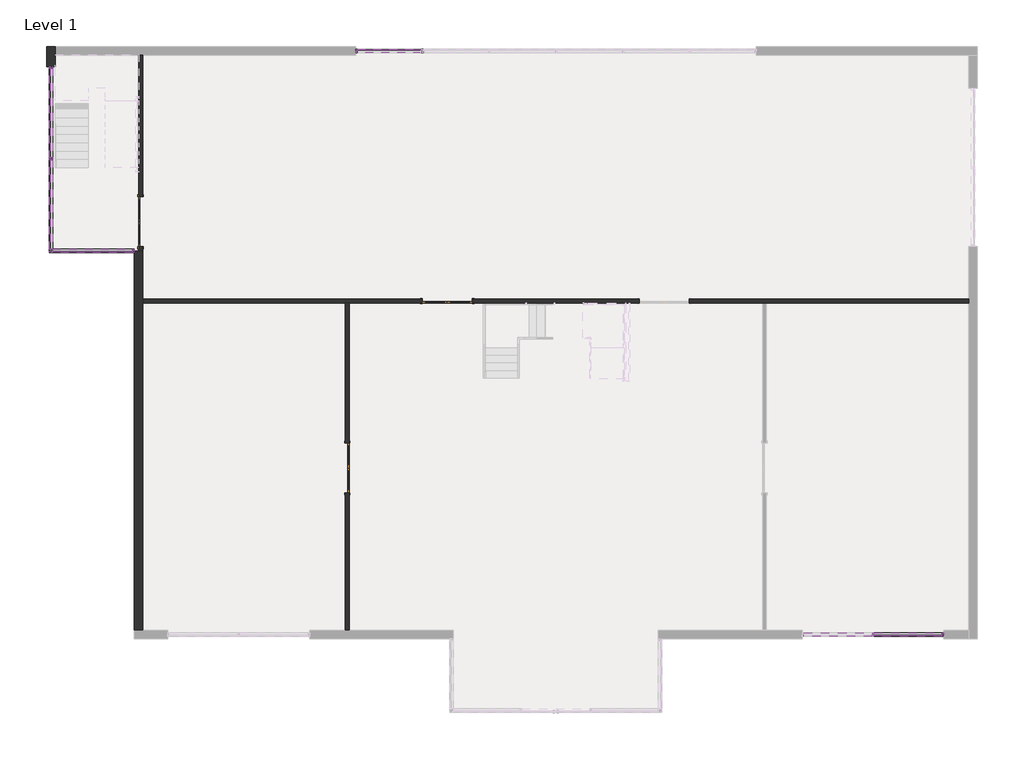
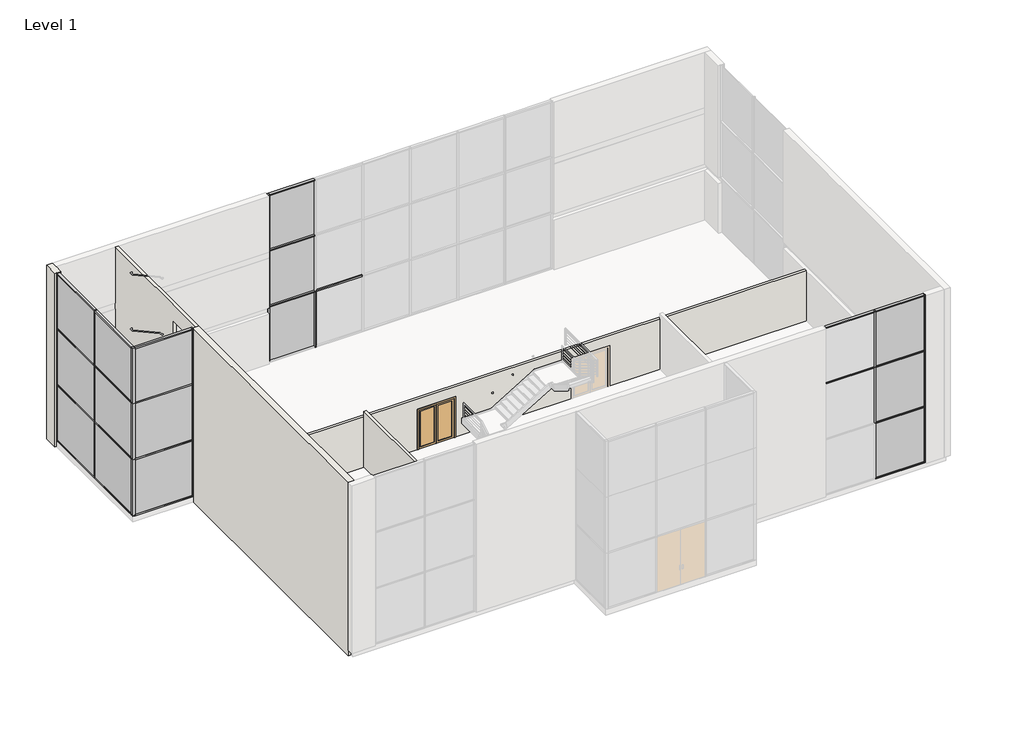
# One storey, part 2 of 7: 50 members, 15 plates, 5 walls, 3 doors.
"""IFC4 building model written with IfcOpenShell, lengths in millimetres."""

import ifcopenshell
import ifcopenshell.guid

model = None  # the IFC model being written
_history = None  # IfcOwnerHistory: only IFC2X3 demands one
_inside = {}  # id of a spatial element -> (the spatial element, [elements in it])
_under = {}  # id of a project, library or spatial element -> (it, [spatial elements below it])
_declared = {}  # id of a project -> (the project, [libraries it declares])
_typed = {}  # id of a type object -> (the type object, [elements of that type])
_made_of = {}  # id of a material, layer set ... -> (it, [elements and type objects made of it])


def new_model(schema):
    """Start an empty IFC model of exactly this schema.

    Asked for "IFC4X3", IfcOpenShell would pick the latest addendum, in which some entities
    have other attributes; the version numbers below select the first issue.
    IFC2X3 requires an IfcOwnerHistory on every rooted entity: one is made here for all.
    """
    global model, _history
    if schema == "IFC4X3":
        model = ifcopenshell.file(schema_version=(4, 3, 0, 0))
    else:
        model = ifcopenshell.file(schema=schema)
    _inside.clear()
    _under.clear()
    _declared.clear()
    _typed.clear()
    _made_of.clear()
    _history = None
    if model.schema == "IFC2X3":
        org = make("IfcOrganization", Name="unknown")
        user = make(
            "IfcPersonAndOrganization",
            ThePerson=make("IfcPerson", FamilyName="unknown"),
            TheOrganization=org,
        )
        app = make(
            "IfcApplication",
            ApplicationDeveloper=org,
            Version="unknown",
            ApplicationFullName="unknown",
            ApplicationIdentifier="unknown",
        )
        _history = make(
            "IfcOwnerHistory",
            OwningUser=user,
            OwningApplication=app,
            ChangeAction="ADDED",
            CreationDate=0,
        )
    return model


def make(cls, **values):
    """One entity of the class cls with the attributes given. An attribute that is None is left unset."""
    return model.create_entity(
        cls, **{name: value for name, value in values.items() if value is not None}
    )


def rooted(cls, **values):
    """An entity with a GlobalId (a new one), such as an element, a storey or a relation."""
    return make(cls, GlobalId=ifcopenshell.guid.new(), OwnerHistory=_history, **values)


def si_unit(unit_type, name, prefix=None):
    """IfcSIUnit, for example si_unit("LENGTHUNIT", "METRE", prefix="MILLI")."""
    return make("IfcSIUnit", UnitType=unit_type, Prefix=prefix, Name=name)


def assignment(units):
    """IfcUnitAssignment: the units of a project."""
    return None if units is None else make("IfcUnitAssignment", Units=units)


def point(xyz):
    """IfcCartesianPoint."""
    return None if xyz is None else make("IfcCartesianPoint", Coordinates=xyz)


def direction(xyz):
    """IfcDirection."""
    return None if xyz is None else make("IfcDirection", DirectionRatios=xyz)


def frame(location, z_axis=None, x_axis=None):
    """IfcAxis2Placement3D, a coordinate frame: its origin and axes. An axis left out is left unset."""
    return make(
        "IfcAxis2Placement3D",
        Location=point(location),
        Axis=direction(z_axis),
        RefDirection=direction(x_axis),
    )


def origin():
    """The frame at (0, 0, 0) with its axes left unset."""
    return frame((0.0, 0.0, 0.0))


def origin_with_axes():
    """The frame at (0, 0, 0) with the z axis (0, 0, 1) and the x axis (1, 0, 0) written out."""
    return frame((0.0, 0.0, 0.0), z_axis=(0.0, 0.0, 1.0), x_axis=(1.0, 0.0, 0.0))


def place(relative_to, where):
    """IfcLocalPlacement: puts the frame where relative to a parent placement (None: the world)."""
    return make(
        "IfcLocalPlacement", PlacementRelTo=relative_to, RelativePlacement=where
    )


def context(
    kind, dimensions, precision=None, world=None, true_north=None, identifier=None
):
    """IfcGeometricRepresentationContext, for example the 3D "Model" context."""
    return make(
        "IfcGeometricRepresentationContext",
        ContextIdentifier=identifier,
        ContextType=kind,
        CoordinateSpaceDimension=dimensions,
        Precision=precision,
        WorldCoordinateSystem=world,
        TrueNorth=true_north,
    )


def project(units=None, contexts=None):
    """IfcProject with its units and contexts."""
    return rooted(
        "IfcProject",
        Name="project",
        RepresentationContexts=contexts,
        UnitsInContext=assignment(units),
    )


def spatial(cls, under=None, at=None, **own):
    """A site, building, storey or space (cls), placed at a placement, below another one or the project."""
    s = rooted(cls, ObjectPlacement=at, **own)
    if under is not None:
        _under.setdefault(under.id(), (under, []))[1].append(s)
    return s


def polyline(points):
    """IfcPolyline through the points."""
    return make("IfcPolyline", Points=[point(p) for p in points])


def outline(outer, holes=None, kind="AREA"):
    """IfcArbitraryClosedProfileDef: a profile drawn as a closed curve; with holes, ...WithVoids."""
    if holes is None:
        return make("IfcArbitraryClosedProfileDef", ProfileType=kind, OuterCurve=outer)
    return make(
        "IfcArbitraryProfileDefWithVoids",
        ProfileType=kind,
        OuterCurve=outer,
        InnerCurves=holes,
    )


def extrude(swept, where, along, depth):
    """IfcExtrudedAreaSolid: the profile swept, set in the frame where, extruded along a direction by depth."""
    return make(
        "IfcExtrudedAreaSolid",
        SweptArea=swept,
        Position=where,
        ExtrudedDirection=direction(along),
        Depth=depth,
    )


def faces_of(points, faces, orient=None, outer=None):
    """IfcFace entities. A face is a list of loops; a loop is a list of indices into points, from 0.

    orient and outer hold one flag for each loop. By default every Orientation is true, the
    first loop of a face is its IfcFaceOuterBound and the others are IfcFaceBound.
    """
    made = []
    for i, loops in enumerate(faces):
        bounds = []
        for j, loop in enumerate(loops):
            is_outer = j == 0 if outer is None else outer[i][j]
            bounds.append(
                make(
                    "IfcFaceOuterBound" if is_outer else "IfcFaceBound",
                    Bound=make("IfcPolyLoop", Polygon=[points[k] for k in loop]),
                    Orientation=True if orient is None else orient[i][j],
                )
            )
        made.append(make("IfcFace", Bounds=bounds))
    return made


def faceted_brep(points, faces, orient=None, outer=None, voids=None):
    """IfcFacetedBrep: a solid bounded by flat faces; with voids (closed shells), ...WithVoids."""
    shared = [point(p) for p in points]
    hull = make("IfcClosedShell", CfsFaces=faces_of(shared, faces, orient, outer))
    if voids is None:
        return make("IfcFacetedBrep", Outer=hull)
    return make(
        "IfcFacetedBrepWithVoids",
        Outer=hull,
        Voids=[
            make(cls, CfsFaces=faces_of(shared, fs, o, b)) for cls, fs, o, b in voids
        ],
    )


def shape(context_of_items, identifier, shape_type, items):
    """IfcShapeRepresentation: the items that make up one representation, for example the "Body"."""
    return make(
        "IfcShapeRepresentation",
        ContextOfItems=context_of_items,
        RepresentationIdentifier=identifier,
        RepresentationType=shape_type,
        Items=items,
    )


def source(mapping_origin, context_of_items, identifier, shape_type, items):
    """IfcRepresentationMap: a shape defined once, which mapped items show again and again."""
    return make(
        "IfcRepresentationMap",
        MappingOrigin=mapping_origin,
        MappedRepresentation=shape(context_of_items, identifier, shape_type, items),
    )


def transform(
    local_origin,
    x_axis=None,
    y_axis=None,
    z_axis=None,
    scale=None,
    scale2=None,
    scale3=None,
    uniform=True,
):
    """IfcCartesianTransformationOperator3D, or its non-uniform kind. x_axis, y_axis, z_axis: its Axis1, 2, 3."""
    if uniform:
        return make(
            "IfcCartesianTransformationOperator3D",
            Axis1=direction(x_axis),
            Axis2=direction(y_axis),
            LocalOrigin=point(local_origin),
            Scale=scale,
            Axis3=direction(z_axis),
        )
    return make(
        "IfcCartesianTransformationOperator3DnonUniform",
        Axis1=direction(x_axis),
        Axis2=direction(y_axis),
        LocalOrigin=point(local_origin),
        Scale=scale,
        Axis3=direction(z_axis),
        Scale2=scale2,
        Scale3=scale3,
    )


def mapped(mapping_source, mapping_target):
    """IfcMappedItem: shows the shape of a source again, moved by a transform."""
    return make(
        "IfcMappedItem", MappingSource=mapping_source, MappingTarget=mapping_target
    )


def made_of(thing, what):
    """Note that an element or type object is made of a material, layer set ...; save() writes the relation."""
    if what is not None:
        _made_of.setdefault(what.id(), (what, []))[1].append(thing)
    return thing


def element(
    cls,
    number,
    at=None,
    inside=None,
    cuts=None,
    type_object=None,
    material=None,
    context=None,
    identifier="Body",
    shape_type=None,
    held_by="IfcProductDefinitionShape",
    body=None,
    shapes=None,
    **own,
):
    """One element of the class cls, such as IfcWall. Its Tag is "e" and its number.

    at: its placement. inside: the storey or other place that contains it. cuts: it is an
    opening in that element (IfcRelVoidsElement). A single representation is given by context,
    identifier, shape_type and body (its items); several are given by shapes. held_by: the class
    of the entity that holds the representations. save() writes the other relations.
    """
    e = rooted(cls, Tag="e%d" % number, ObjectPlacement=at, **own)
    if body is not None:
        shapes = [shape(context, identifier, shape_type, body)]
    if shapes is not None:
        e.Representation = make(held_by, Representations=shapes)
    if inside is not None:
        _inside.setdefault(inside.id(), (inside, []))[1].append(e)
    if cuts is not None:
        rooted(
            "IfcRelVoidsElement", RelatingBuildingElement=cuts, RelatedOpeningElement=e
        )
    if type_object is not None:
        _typed.setdefault(type_object.id(), (type_object, []))[1].append(e)
    return made_of(e, material)


def aggregate(whole, parts):
    """IfcRelAggregates: a whole, such as a stair, and the parts it consists of."""
    return rooted("IfcRelAggregates", RelatingObject=whole, RelatedObjects=parts)


def save(model, path):
    """Write the relations noted so far, then the file.

    IfcRelAggregates (storeys below a building ...), IfcRelContainedInSpatialStructure (elements
    in a storey), IfcRelDefinesByType, IfcRelAssociatesMaterial and IfcRelDeclares: one each for
    every whole, place, type object, material and project.
    """
    for whole, parts in _under.values():
        aggregate(whole, parts)
    for where, things in _inside.values():
        rooted(
            "IfcRelContainedInSpatialStructure",
            RelatedElements=things,
            RelatingStructure=where,
        )
    for kind, things in _typed.values():
        rooted("IfcRelDefinesByType", RelatedObjects=things, RelatingType=kind)
    for what, things in _made_of.values():
        rooted("IfcRelAssociatesMaterial", RelatedObjects=things, RelatingMaterial=what)
    for by, libraries in _declared.values():
        rooted("IfcRelDeclares", RelatingContext=by, RelatedDefinitions=libraries)
    model.write(path)


def door_cb31edf2(model_context):
    return source(origin(), model_context, "Body", "SweptSolid", [
        extrude(outline(polyline([(2133.6, -914.4), (0.0, -914.4), (0.0, 0.0), (2133.6, 0.0), (2133.6, -914.4)]), holes=[polyline([(2032.0, -812.8), (2032.0, -101.6), (101.6, -101.6), (101.6, -812.8), (2032.0, -812.8)])]), frame((0.0, 29.36875, 0.0), z_axis=(0.0, 1.0, 0.0), x_axis=(0.0, 0.0, 1.0)), (0.0, 0.0, 1.0), 50.8),
        extrude(outline(polyline([(2133.6, 914.4), (2133.6, 0.0), (0.0, 0.0), (0.0, 914.4), (2133.6, 914.4)]), holes=[polyline([(2032.0, 812.8), (101.6, 812.8), (101.6, 101.6), (2032.0, 101.6), (2032.0, 812.8)])]), frame((0.0, 29.36875, 0.0), z_axis=(0.0, 1.0, 0.0), x_axis=(0.0, 0.0, 1.0)), (0.0, 0.0, 1.0), 50.8),
        extrude(outline(polyline([(101.6, 57.94375), (812.8, 57.94375), (812.8, 51.59375), (101.6, 51.59375), (101.6, 57.94375)])), frame((0.0, 0.0, 101.6), z_axis=(0.0, 0.0, 1.0), x_axis=(1.0, 0.0, 0.0)), (0.0, 0.0, 1.0), 1930.4),
        extrude(outline(polyline([(-812.8, 57.94375), (-101.6, 57.94375), (-101.6, 51.59375), (-812.8, 51.59375), (-812.8, 57.94375)])), frame((0.0, 0.0, 101.6), z_axis=(0.0, 0.0, 1.0), x_axis=(1.0, 0.0, 0.0)), (0.0, 0.0, 1.0), 1930.4),
        extrude(outline(polyline([(0.0, 990.6), (2209.8, 990.6), (2209.8, -990.6), (0.0, -990.6), (0.0, -914.4), (2133.6, -914.4), (2133.6, 914.4), (0.0, 914.4), (0.0, 990.6)])), frame((0.0, 80.16875, 0.0), z_axis=(0.0, 1.0, 0.0), x_axis=(0.0, 0.0, 1.0)), (0.0, 0.0, 1.0), 25.4),
        extrude(outline(polyline([(0.0, 990.6), (2209.8, 990.6), (2209.8, -990.6), (0.0, -990.6), (0.0, -914.4), (2133.6, -914.4), (2133.6, 914.4), (0.0, 914.4), (0.0, 990.6)])), frame((0.0, -100.80625, 0.0), z_axis=(0.0, 1.0, 0.0), x_axis=(0.0, 0.0, 1.0)), (0.0, 0.0, 1.0), 25.4),
    ])


def door_3f2f997e(model_context):
    return source(origin(), model_context, "Body", "SweptSolid", [
        extrude(outline(polyline([(2133.6, -914.4), (0.0, -914.4), (0.0, 0.0), (2133.6, 0.0), (2133.6, -914.4)]), holes=[polyline([(2032.0, -812.8), (2032.0, -101.6), (101.6, -101.6), (101.6, -812.8), (2032.0, -812.8)])]), frame((0.0, 21.43125, 0.0), z_axis=(0.0, 1.0, 0.0), x_axis=(0.0, 0.0, 1.0)), (0.0, 0.0, 1.0), 50.8),
        extrude(outline(polyline([(2133.6, 914.4), (2133.6, 0.0), (0.0, 0.0), (0.0, 914.4), (2133.6, 914.4)]), holes=[polyline([(2032.0, 812.8), (101.6, 812.8), (101.6, 101.6), (2032.0, 101.6), (2032.0, 812.8)])]), frame((0.0, 21.43125, 0.0), z_axis=(0.0, 1.0, 0.0), x_axis=(0.0, 0.0, 1.0)), (0.0, 0.0, 1.0), 50.8),
        extrude(outline(polyline([(101.6, 50.00625), (812.8, 50.00625), (812.8, 43.65625), (101.6, 43.65625), (101.6, 50.00625)])), frame((0.0, 0.0, 101.6), z_axis=(0.0, 0.0, 1.0), x_axis=(1.0, 0.0, 0.0)), (0.0, 0.0, 1.0), 1930.4),
        extrude(outline(polyline([(-812.8, 50.00625), (-101.6, 50.00625), (-101.6, 43.65625), (-812.8, 43.65625), (-812.8, 50.00625)])), frame((0.0, 0.0, 101.6), z_axis=(0.0, 0.0, 1.0), x_axis=(1.0, 0.0, 0.0)), (0.0, 0.0, 1.0), 1930.4),
        extrude(outline(polyline([(0.0, 990.6), (2209.8, 990.6), (2209.8, -990.6), (0.0, -990.6), (0.0, -914.4), (2133.6, -914.4), (2133.6, 914.4), (0.0, 914.4), (0.0, 990.6)])), frame((0.0, 72.23125, 0.0), z_axis=(0.0, 1.0, 0.0), x_axis=(0.0, 0.0, 1.0)), (0.0, 0.0, 1.0), 25.4),
        extrude(outline(polyline([(0.0, 990.6), (2209.8, 990.6), (2209.8, -990.6), (0.0, -990.6), (0.0, -914.4), (2133.6, -914.4), (2133.6, 914.4), (0.0, 914.4), (0.0, 990.6)])), frame((0.0, -92.86875, 0.0), z_axis=(0.0, 1.0, 0.0), x_axis=(0.0, 0.0, 1.0)), (0.0, 0.0, 1.0), 25.4),
    ])


def member_092dde94(model_context):
    return source(origin(), model_context, "Body", "SweptSolid", [
        extrude(outline(polyline([(63.5, 63.5), (63.5, -63.5), (-63.5, -63.5), (-63.5, 63.5), (63.5, 63.5)])), frame((0.0, 0.0, -3048.0), z_axis=(0.0, 0.0, 1.0), x_axis=(1.0, 0.0, 0.0)), (0.0, 0.0, 1.0), 3048.0),
    ])


def member_230d3ecf(model_context):
    return source(origin(), model_context, "Body", "SweptSolid", [
        extrude(outline(polyline([(63.5, 63.5), (63.5, -63.5), (-63.5, -63.5), (-63.5, 63.5), (63.5, 63.5)])), frame((0.0, 0.0, -31.75), z_axis=(0.0, 0.0, 1.0), x_axis=(1.0, 0.0, 0.0)), (0.0, 0.0, 1.0), 31.75),
    ])


def member_4c95cb00(model_context):
    return source(origin(), model_context, "Body", "SweptSolid", [
        extrude(outline(polyline([(63.5, 63.5), (63.5, -63.5), (-63.5, -63.5), (-63.5, 63.5), (63.5, 63.5)])), frame((0.0, 0.0, -3016.25), z_axis=(0.0, 0.0, 1.0), x_axis=(1.0, 0.0, 0.0)), (0.0, 0.0, 1.0), 3016.25),
    ])


def member_eaba9652(model_context):
    return source(origin(), model_context, "Body", "SweptSolid", [
        extrude(outline(polyline([(31.75, 63.5), (31.75, -63.5), (-31.75, -63.5), (-31.75, 63.5), (31.75, 63.5)])), frame((0.0, 0.0, -3048.0), z_axis=(0.0, 0.0, 1.0), x_axis=(1.0, 0.0, 0.0)), (0.0, 0.0, 1.0), 3048.0),
    ])


def member_3f395ae9(model_context):
    return source(origin(), model_context, "Body", "SweptSolid", [
        extrude(outline(polyline([(0.0, 63.5), (0.0, -63.5), (-63.5, -63.5), (-63.5, 63.5), (0.0, 63.5)])), frame((0.0, 0.0, -3048.0), z_axis=(0.0, 0.0, 1.0), x_axis=(1.0, 0.0, 0.0)), (0.0, 0.0, 1.0), 3048.0),
    ])


def member_b6766b59(model_context):
    return source(origin(), model_context, "Body", "SweptSolid", [
        extrude(outline(polyline([(0.0, 63.5), (0.0, -63.5), (-63.5, -63.5), (-63.5, 63.5), (0.0, 63.5)])), frame((0.0, 0.0, -2495.55), z_axis=(0.0, 0.0, 1.0), x_axis=(1.0, 0.0, 0.0)), (0.0, 0.0, 1.0), 2495.55),
    ])


def member_5ef46571(model_context):
    return source(origin(), model_context, "Body", "SweptSolid", [
        extrude(outline(polyline([(31.75, 63.5), (31.75, -63.5), (-31.75, -63.5), (-31.75, 63.5), (31.75, 63.5)])), frame((0.0, 0.0, -2495.55), z_axis=(0.0, 0.0, 1.0), x_axis=(1.0, 0.0, 0.0)), (0.0, 0.0, 1.0), 2495.55),
    ])


def member_2d82c926(model_context):
    return source(origin(), model_context, "Body", "SweptSolid", [
        extrude(outline(polyline([(0.0, 63.5), (0.0, -63.5), (-63.5, -63.5), (-63.5, 63.5), (0.0, 63.5)])), frame((0.0, 0.0, -3273.425), z_axis=(0.0, 0.0, 1.0), x_axis=(1.0, 0.0, 0.0)), (0.0, 0.0, 1.0), 3273.425),
    ])


def member_728bf22d(model_context):
    return source(origin(), model_context, "Body", "SweptSolid", [
        extrude(outline(polyline([(31.75, 63.5), (31.75, -63.5), (-31.75, -63.5), (-31.75, 63.5), (31.75, 63.5)])), frame((0.0, 0.0, -3273.425), z_axis=(0.0, 0.0, 1.0), x_axis=(1.0, 0.0, 0.0)), (0.0, 0.0, 1.0), 3273.425),
    ])


def member_bbfb4d53(model_context):
    return source(origin(), model_context, "Body", "SweptSolid", [
        extrude(outline(polyline([(0.0, 63.5), (0.0, -63.5), (-63.5, -63.5), (-63.5, 63.5), (0.0, 63.5)])), frame((0.0, 0.0, -31.75), z_axis=(0.0, 0.0, 1.0), x_axis=(1.0, 0.0, 0.0)), (0.0, 0.0, 1.0), 31.75),
    ])


def member_051d43dc(model_context):
    return source(origin(), model_context, "Body", "SweptSolid", [
        extrude(outline(polyline([(31.75, 63.5), (31.75, -63.5), (-31.75, -63.5), (-31.75, 63.5), (31.75, 63.5)])), frame((0.0, 0.0, -31.75), z_axis=(0.0, 0.0, 1.0), x_axis=(1.0, 0.0, 0.0)), (0.0, 0.0, 1.0), 31.75),
    ])


def member_13b0e0f4(model_context):
    return source(origin(), model_context, "Body", "SweptSolid", [
        extrude(outline(polyline([(0.0, 63.5), (0.0, -63.5), (-63.5, -63.5), (-63.5, 63.5), (0.0, 63.5)])), frame((0.0, 0.0, -3016.25), z_axis=(0.0, 0.0, 1.0), x_axis=(1.0, 0.0, 0.0)), (0.0, 0.0, 1.0), 3016.25),
    ])


def member_a25cc450(model_context):
    return source(origin(), model_context, "Body", "SweptSolid", [
        extrude(outline(polyline([(31.75, 63.5), (31.75, -63.5), (-31.75, -63.5), (-31.75, 63.5), (31.75, 63.5)])), frame((0.0, 0.0, -3016.25), z_axis=(0.0, 0.0, 1.0), x_axis=(1.0, 0.0, 0.0)), (0.0, 0.0, 1.0), 3016.25),
    ])


def member_d457d5cf(model_context):
    return source(origin(), model_context, "Body", "SweptSolid", [
        extrude(outline(polyline([(0.0, 63.5), (0.0, -63.5), (-63.5, -63.5), (-63.5, 63.5), (0.0, 63.5)])), frame((0.0, 0.0, -2921.0), z_axis=(0.0, 0.0, 1.0), x_axis=(1.0, 0.0, 0.0)), (0.0, 0.0, 1.0), 2921.0),
    ])


def member_2ed7bf35(model_context):
    return source(origin(), model_context, "Body", "SweptSolid", [
        extrude(outline(polyline([(31.75, 63.5), (31.75, -63.5), (-31.75, -63.5), (-31.75, 63.5), (31.75, 63.5)])), frame((0.0, 0.0, -2921.0), z_axis=(0.0, 0.0, 1.0), x_axis=(1.0, 0.0, 0.0)), (0.0, 0.0, 1.0), 2921.0),
    ])


def member_11459e8a(model_context):
    return source(origin(), model_context, "Body", "SweptSolid", [
        extrude(outline(polyline([(0.0, 63.5), (0.0, -63.5), (-63.5, -63.5), (-63.5, 63.5), (0.0, 63.5)])), frame((0.0, 0.0, -2343.1500002), z_axis=(0.0, 0.0, 1.0), x_axis=(1.0, 0.0, 0.0)), (0.0, 0.0, 1.0), 2343.1500002),
    ])


def member_2d95a7ea(model_context):
    return source(origin(), model_context, "Body", "SweptSolid", [
        extrude(outline(polyline([(31.75, 63.5), (31.75, -63.5), (-31.75, -63.5), (-31.75, 63.5), (31.75, 63.5)])), frame((0.0, 0.0, -2343.1500002), z_axis=(0.0, 0.0, 1.0), x_axis=(1.0, 0.0, 0.0)), (0.0, 0.0, 1.0), 2343.1500002),
    ])


def member_6c7b7f5c(model_context):
    return source(origin(), model_context, "Body", "SweptSolid", [
        extrude(outline(polyline([(31.75, 63.5), (31.75, -63.5), (-31.75, -63.5), (-31.75, 63.5), (31.75, 63.5)])), frame((0.0, 0.0, -2374.8999999), z_axis=(0.0, 0.0, 1.0), x_axis=(1.0, 0.0, 0.0)), (0.0, 0.0, 1.0), 2374.8999999),
    ])


def system_panel_glazed_54eba105(model_context):
    return source(origin(), model_context, "Body", "SweptSolid", [
        extrude(outline(polyline([(1247.775, -44.45), (-1247.775, -44.45), (-1247.775, -19.05), (1247.775, -19.05), (1247.775, -44.45)])), origin_with_axes(), (0.0, 0.0, 1.0), 2952.75),
    ])


def system_panel_glazed_2b873caf(model_context):
    return source(origin(), model_context, "Body", "SweptSolid", [
        extrude(outline(polyline([(1247.775, -44.45), (-1247.775, -44.45), (-1247.775, -19.05), (1247.775, -19.05), (1247.775, -44.45)])), origin_with_axes(), (0.0, 0.0, 1.0), 2984.5),
    ])


def system_panel_glazed_26911bd7(model_context):
    return source(origin(), model_context, "Body", "SweptSolid", [
        extrude(outline(polyline([(1636.7125, -44.45), (-1636.7125, -44.45), (-1636.7125, -19.05), (1636.7125, -19.05), (1636.7125, -44.45)])), origin_with_axes(), (0.0, 0.0, 1.0), 2984.5),
    ])


def system_panel_glazed_ddc2896f(model_context):
    return source(origin(), model_context, "Body", "SweptSolid", [
        extrude(outline(polyline([(1636.7125, -44.45), (-1636.7125, -44.45), (-1636.7125, -19.05), (1636.7125, -19.05), (1636.7125, -44.45)])), origin_with_axes(), (0.0, 0.0, 1.0), 2921.0),
    ])


def system_panel_glazed_01310f2f(model_context):
    return source(origin(), model_context, "Body", "SweptSolid", [
        extrude(outline(polyline([(1460.5, 19.05), (-1460.5, 19.05), (-1460.5, 44.45), (1460.5, 44.45), (1460.5, 19.05)])), origin_with_axes(), (0.0, 0.0, 1.0), 2984.5),
    ])


def system_panel_glazed_8a0dce87(model_context):
    return source(origin(), model_context, "Body", "SweptSolid", [
        extrude(outline(polyline([(1460.5, 19.05), (-1460.5, 19.05), (-1460.5, 44.45), (1460.5, 44.45), (1460.5, 19.05)])), origin_with_axes(), (0.0, 0.0, 1.0), 2921.0),
    ])


def system_panel_glazed_d08b41f0(model_context):
    return source(origin(), model_context, "Body", "SweptSolid", [
        extrude(outline(polyline([(1171.5750001, -44.45), (-1171.5750001, -44.45), (-1171.5750001, -19.05), (1171.5750001, -19.05), (1171.5750001, -44.45)])), origin_with_axes(), (0.0, 0.0, 1.0), 2952.75),
    ])


def system_panel_glazed_ece86c27(model_context):
    return source(origin(), model_context, "Body", "SweptSolid", [
        extrude(outline(polyline([(1171.5750001, -44.45), (-1171.5750001, -44.45), (-1171.5750001, -19.05), (1171.5750001, -19.05), (1171.5750001, -44.45)])), origin_with_axes(), (0.0, 0.0, 1.0), 2984.5),
    ])


model = new_model("IFC4")

# Units and contexts
model_context = context("Model", 3, world=origin())
ifc_project = project(units=[si_unit("LENGTHUNIT", "METRE", prefix="MILLI")], contexts=[model_context])

# Site, building, storey
site = spatial("IfcSite", under=ifc_project)
building = spatial("IfcBuilding", under=site)
storey = spatial("IfcBuildingStorey", under=building, Name="Level 1", Elevation=0.0)

# Doors
placement = place(None, origin())
door_shape = door_cb31edf2(model_context)
element("IfcDoor", 1, ObjectType="Door-Double-Glass : 72\" x 84\"", at=placement, inside=storey, context=model_context, shape_type="MappedRepresentation", body=[
    mapped(door_shape, transform((-18248.748632, 9505.1983604, 0.0), x_axis=(0.0, 1.0, 0.0), y_axis=(-1.0, 0.0, 0.0), z_axis=(0.0, 0.0, 1.0))),
])
door_2_shape = door_3f2f997e(model_context)
element("IfcDoor", 2, ObjectType="Door-Double-Glass : 72\" x 84\"", at=placement, inside=storey, context=model_context, shape_type="MappedRepresentation", body=[
    mapped(door_2_shape, transform((-10711.298632, 513.5983604, 0.0), x_axis=(0.0, -1.0, 0.0), y_axis=(1.0, 0.0, 0.0), z_axis=(0.0, 0.0, 1.0))),
])
element("IfcDoor", 3, ObjectType="Door-Double-Glass : 72\" x 84\"", at=placement, inside=storey, context=model_context, shape_type="MappedRepresentation", body=[
    mapped(door_2_shape, transform((-7051.317382, 6611.9796104, 0.0), x_axis=(-1.0, 0.0, 0.0), y_axis=(0.0, -1.0, 0.0), z_axis=(0.0, 0.0, 1.0))),
])

# Members
member_shape = member_092dde94(model_context)
element("IfcMember", 4, ObjectType="Quad Corner Mullion : 5\" x 5\" Quad Corner", at=placement, inside=storey, context=model_context, shape_type="MappedRepresentation", body=[
    mapped(member_shape, transform((-21532.492382, 8438.3983604, 31.75), x_axis=(-1.0, 0.0, 0.0), y_axis=(0.0, 1.0, 0.0), z_axis=(0.0, 0.0, -1.0))),
])
element("IfcMember", 5, ObjectType="Quad Corner Mullion : 5\" x 5\" Quad Corner", at=placement, inside=storey, context=model_context, shape_type="MappedRepresentation", body=[
    mapped(member_shape, transform((-21532.492382, 8438.3983604, 3079.75), x_axis=(-1.0, 0.0, 0.0), y_axis=(0.0, 1.0, 0.0), z_axis=(0.0, 0.0, -1.0))),
])
member_2_shape = member_230d3ecf(model_context)
element("IfcMember", 6, ObjectType="Quad Corner Mullion : 5\" x 5\" Quad Corner", at=placement, inside=storey, context=model_context, shape_type="MappedRepresentation", body=[
    mapped(member_2_shape, transform((-21532.492382, 8438.3983604, 0.0), x_axis=(-1.0, 0.0, 0.0), y_axis=(0.0, 1.0, 0.0), z_axis=(0.0, 0.0, -1.0))),
])
member_3_shape = member_4c95cb00(model_context)
element("IfcMember", 7, ObjectType="Quad Corner Mullion : 5\" x 5\" Quad Corner", at=placement, inside=storey, context=model_context, shape_type="MappedRepresentation", body=[
    mapped(member_3_shape, transform((-21532.492382, 8438.3983604, 6127.75), x_axis=(-1.0, 0.0, 0.0), y_axis=(0.0, 1.0, 0.0), z_axis=(0.0, 0.0, -1.0))),
])
member_4_shape = member_eaba9652(model_context)
element("IfcMember", 8, ObjectType="Rectangular Mullion : 2.5\" x 5\" rectangular", at=placement, inside=storey, context=model_context, shape_type="MappedRepresentation", body=[
    mapped(member_4_shape, transform((-7965.7173818, 15753.5983604, 0.0), x_axis=(-1.0, 0.0, 0.0), y_axis=(0.0, 1.0, 0.0), z_axis=(0.0, 0.0, -1.0))),
])
element("IfcMember", 9, ObjectType="Rectangular Mullion : 2.5\" x 5\" rectangular", at=placement, inside=storey, context=model_context, shape_type="MappedRepresentation", body=[
    mapped(member_4_shape, transform((8493.482618, -5582.4016396, 3048.0), x_axis=(1.0, 0.0, 0.0), y_axis=(0.0, -1.0, 0.0), z_axis=(0.0, 0.0, -1.0))),
])
element("IfcMember", 10, ObjectType="Rectangular Mullion : 2.5\" x 5\" rectangular", at=placement, inside=storey, context=model_context, shape_type="MappedRepresentation", body=[
    mapped(member_4_shape, transform((-21532.492382, 11807.0733604, 31.75), x_axis=(0.0, -1.0, 0.0), y_axis=(-1.0, 0.0, 0.0), z_axis=(0.0, 0.0, -1.0))),
])
element("IfcMember", 11, ObjectType="Rectangular Mullion : 2.5\" x 5\" rectangular", at=placement, inside=storey, context=model_context, shape_type="MappedRepresentation", body=[
    mapped(member_4_shape, transform((-21532.492382, 11807.0733604, 3079.75), x_axis=(0.0, -1.0, 0.0), y_axis=(-1.0, 0.0, 0.0), z_axis=(0.0, 0.0, -1.0))),
])
element("IfcMember", 12, ObjectType="Rectangular Mullion : 2.5\" x 5\" rectangular", at=placement, inside=storey, context=model_context, shape_type="MappedRepresentation", body=[
    mapped(member_4_shape, transform((8493.482618, -5582.4016396, 6096.0), x_axis=(1.0, 0.0, 0.0), y_axis=(0.0, -1.0, 0.0), z_axis=(0.0, 0.0, -1.0))),
])
member_5_shape = member_3f395ae9(model_context)
element("IfcMember", 13, ObjectType="Rectangular Mullion : 2.5\" x 5\" rectangular", at=placement, inside=storey, context=model_context, shape_type="MappedRepresentation", body=[
    mapped(member_5_shape, transform((-10404.117382, 15753.5983604, 0.0), x_axis=(-1.0, 0.0, 0.0), y_axis=(0.0, 1.0, 0.0), z_axis=(0.0, 0.0, -1.0))),
])
element("IfcMember", 14, ObjectType="Rectangular Mullion : 2.5\" x 5\" rectangular", at=placement, inside=storey, context=model_context, shape_type="MappedRepresentation", body=[
    mapped(member_5_shape, transform((11084.282618, -5582.4016396, 0.0), x_axis=(1.0, 0.0, 0.0), y_axis=(0.0, -1.0, 0.0), z_axis=(0.0, 0.0, -1.0))),
])
element("IfcMember", 15, ObjectType="Rectangular Mullion : 2.5\" x 5\" rectangular", at=placement, inside=storey, context=model_context, shape_type="MappedRepresentation", body=[
    mapped(member_5_shape, transform((-10404.117382, 15753.5983604, 3048.0), x_axis=(-1.0, 0.0, 0.0), y_axis=(0.0, 1.0, 0.0), z_axis=(0.0, 0.0, -1.0))),
])
element("IfcMember", 16, ObjectType="Rectangular Mullion : 2.5\" x 5\" rectangular", at=placement, inside=storey, context=model_context, shape_type="MappedRepresentation", body=[
    mapped(member_5_shape, transform((11084.282618, -5582.4016396, 3048.0), x_axis=(1.0, 0.0, 0.0), y_axis=(0.0, -1.0, 0.0), z_axis=(0.0, 0.0, -1.0))),
])
element("IfcMember", 17, ObjectType="Rectangular Mullion : 2.5\" x 5\" rectangular", at=placement, inside=storey, context=model_context, shape_type="MappedRepresentation", body=[
    mapped(member_5_shape, transform((-10404.117382, 15753.5983604, 6096.0), x_axis=(-1.0, 0.0, 0.0), y_axis=(0.0, 1.0, 0.0), z_axis=(0.0, 0.0, -1.0))),
])
element("IfcMember", 18, ObjectType="Rectangular Mullion : 2.5\" x 5\" rectangular", at=placement, inside=storey, context=model_context, shape_type="MappedRepresentation", body=[
    mapped(member_5_shape, transform((11084.282618, -5582.4016396, 6096.0), x_axis=(1.0, 0.0, 0.0), y_axis=(0.0, -1.0, 0.0), z_axis=(0.0, 0.0, -1.0))),
])
element("IfcMember", 19, ObjectType="Rectangular Mullion : 2.5\" x 5\" rectangular", at=placement, inside=storey, context=model_context, shape_type="MappedRepresentation", body=[
    mapped(member_5_shape, transform((-21532.492382, 15175.7483604, 3079.75), x_axis=(0.0, 1.0, 0.0), y_axis=(-1.0, 0.0, 0.0), z_axis=(0.0, 0.0, 1.0))),
])
element("IfcMember", 20, ObjectType="Rectangular Mullion : 2.5\" x 5\" rectangular", at=placement, inside=storey, context=model_context, shape_type="MappedRepresentation", body=[
    mapped(member_5_shape, transform((-21532.492382, 15175.7483604, 6127.75), x_axis=(0.0, 1.0, 0.0), y_axis=(-1.0, 0.0, 0.0), z_axis=(0.0, 0.0, 1.0))),
])
element("IfcMember", 21, ObjectType="Rectangular Mullion : 2.5\" x 5\" rectangular", at=placement, inside=storey, context=model_context, shape_type="MappedRepresentation", body=[
    mapped(member_5_shape, transform((-18484.492382, 8438.3983604, 3079.75), x_axis=(1.0, 0.0, 0.0), y_axis=(0.0, 1.0, 0.0), z_axis=(0.0, 0.0, 1.0))),
])
element("IfcMember", 22, ObjectType="Rectangular Mullion : 2.5\" x 5\" rectangular", at=placement, inside=storey, context=model_context, shape_type="MappedRepresentation", body=[
    mapped(member_5_shape, transform((-18484.492382, 8438.3983604, 6127.75), x_axis=(1.0, 0.0, 0.0), y_axis=(0.0, 1.0, 0.0), z_axis=(0.0, 0.0, 1.0))),
])
member_6_shape = member_b6766b59(model_context)
element("IfcMember", 23, ObjectType="Rectangular Mullion : 2.5\" x 5\" rectangular", at=placement, inside=storey, context=model_context, shape_type="MappedRepresentation", body=[
    mapped(member_6_shape, transform((11020.782618, -5582.4016396, 9144.0), x_axis=(0.0, 0.0, 1.0), y_axis=(0.0, -1.0, 0.0), z_axis=(1.0, 0.0, 0.0))),
])
element("IfcMember", 24, ObjectType="Rectangular Mullion : 2.5\" x 5\" rectangular", at=placement, inside=storey, context=model_context, shape_type="MappedRepresentation", body=[
    mapped(member_6_shape, transform((8461.732618, -5582.4016396, 9144.0), x_axis=(0.0, 0.0, 1.0), y_axis=(0.0, -1.0, 0.0), z_axis=(1.0, 0.0, 0.0))),
])
element("IfcMember", 25, ObjectType="Rectangular Mullion : 2.5\" x 5\" rectangular", at=placement, inside=storey, context=model_context, shape_type="MappedRepresentation", body=[
    mapped(member_6_shape, transform((8525.232618, -5582.4016396, 0.0), x_axis=(0.0, 0.0, -1.0), y_axis=(0.0, -1.0, 0.0), z_axis=(-1.0, 0.0, 0.0))),
])
member_7_shape = member_5ef46571(model_context)
element("IfcMember", 26, ObjectType="Rectangular Mullion : 2.5\" x 5\" rectangular", at=placement, inside=storey, context=model_context, shape_type="MappedRepresentation", body=[
    mapped(member_7_shape, transform((11020.782618, -5582.4016396, 3048.0), x_axis=(0.0, 0.0, 1.0), y_axis=(0.0, -1.0, 0.0), z_axis=(1.0, 0.0, 0.0))),
])
element("IfcMember", 27, ObjectType="Rectangular Mullion : 2.5\" x 5\" rectangular", at=placement, inside=storey, context=model_context, shape_type="MappedRepresentation", body=[
    mapped(member_7_shape, transform((8461.732618, -5582.4016396, 6096.0), x_axis=(0.0, 0.0, 1.0), y_axis=(0.0, -1.0, 0.0), z_axis=(1.0, 0.0, 0.0))),
])
element("IfcMember", 28, ObjectType="Rectangular Mullion : 2.5\" x 5\" rectangular", at=placement, inside=storey, context=model_context, shape_type="MappedRepresentation", body=[
    mapped(member_7_shape, transform((11020.782618, -5582.4016396, 6096.0), x_axis=(0.0, 0.0, 1.0), y_axis=(0.0, -1.0, 0.0), z_axis=(1.0, 0.0, 0.0))),
])
member_8_shape = member_2d82c926(model_context)
element("IfcMember", 29, ObjectType="Rectangular Mullion : 2.5\" x 5\" rectangular", at=placement, inside=storey, context=model_context, shape_type="MappedRepresentation", body=[
    mapped(member_8_shape, transform((-21532.492382, 8501.8983604, 9144.0), x_axis=(0.0, 0.0, 1.0), y_axis=(-1.0, 0.0, 0.0), z_axis=(0.0, -1.0, 0.0))),
])
element("IfcMember", 30, ObjectType="Rectangular Mullion : 2.5\" x 5\" rectangular", at=placement, inside=storey, context=model_context, shape_type="MappedRepresentation", body=[
    mapped(member_8_shape, transform((-21532.492382, 11838.8233604, 9144.0), x_axis=(0.0, 0.0, 1.0), y_axis=(-1.0, 0.0, 0.0), z_axis=(0.0, -1.0, 0.0))),
])
element("IfcMember", 31, ObjectType="Rectangular Mullion : 2.5\" x 5\" rectangular", at=placement, inside=storey, context=model_context, shape_type="MappedRepresentation", body=[
    mapped(member_8_shape, transform((-21532.492382, 15112.2483604, 0.0), x_axis=(0.0, 0.0, -1.0), y_axis=(-1.0, 0.0, 0.0), z_axis=(0.0, 1.0, 0.0))),
])
element("IfcMember", 32, ObjectType="Rectangular Mullion : 2.5\" x 5\" rectangular", at=placement, inside=storey, context=model_context, shape_type="MappedRepresentation", body=[
    mapped(member_8_shape, transform((-21532.492382, 11775.3233604, 0.0), x_axis=(0.0, 0.0, -1.0), y_axis=(-1.0, 0.0, 0.0), z_axis=(0.0, 1.0, 0.0))),
])
member_9_shape = member_728bf22d(model_context)
element("IfcMember", 33, ObjectType="Rectangular Mullion : 2.5\" x 5\" rectangular", at=placement, inside=storey, context=model_context, shape_type="MappedRepresentation", body=[
    mapped(member_9_shape, transform((-21532.492382, 11838.8233604, 31.75), x_axis=(0.0, 0.0, 1.0), y_axis=(-1.0, 0.0, 0.0), z_axis=(0.0, -1.0, 0.0))),
])
element("IfcMember", 34, ObjectType="Rectangular Mullion : 2.5\" x 5\" rectangular", at=placement, inside=storey, context=model_context, shape_type="MappedRepresentation", body=[
    mapped(member_9_shape, transform((-21532.492382, 8501.8983604, 31.75), x_axis=(0.0, 0.0, 1.0), y_axis=(-1.0, 0.0, 0.0), z_axis=(0.0, -1.0, 0.0))),
])
element("IfcMember", 35, ObjectType="Rectangular Mullion : 2.5\" x 5\" rectangular", at=placement, inside=storey, context=model_context, shape_type="MappedRepresentation", body=[
    mapped(member_9_shape, transform((-21532.492382, 11838.8233604, 3079.75), x_axis=(0.0, 0.0, 1.0), y_axis=(-1.0, 0.0, 0.0), z_axis=(0.0, -1.0, 0.0))),
])
element("IfcMember", 36, ObjectType="Rectangular Mullion : 2.5\" x 5\" rectangular", at=placement, inside=storey, context=model_context, shape_type="MappedRepresentation", body=[
    mapped(member_9_shape, transform((-21532.492382, 8501.8983604, 3079.75), x_axis=(0.0, 0.0, 1.0), y_axis=(-1.0, 0.0, 0.0), z_axis=(0.0, -1.0, 0.0))),
])
element("IfcMember", 37, ObjectType="Rectangular Mullion : 2.5\" x 5\" rectangular", at=placement, inside=storey, context=model_context, shape_type="MappedRepresentation", body=[
    mapped(member_9_shape, transform((-21532.492382, 11838.8233604, 6127.75), x_axis=(0.0, 0.0, 1.0), y_axis=(-1.0, 0.0, 0.0), z_axis=(0.0, -1.0, 0.0))),
])
element("IfcMember", 38, ObjectType="Rectangular Mullion : 2.5\" x 5\" rectangular", at=placement, inside=storey, context=model_context, shape_type="MappedRepresentation", body=[
    mapped(member_9_shape, transform((-21532.492382, 8501.8983604, 6127.75), x_axis=(0.0, 0.0, 1.0), y_axis=(-1.0, 0.0, 0.0), z_axis=(0.0, -1.0, 0.0))),
])
member_10_shape = member_bbfb4d53(model_context)
element("IfcMember", 39, ObjectType="Rectangular Mullion : 2.5\" x 5\" rectangular", at=placement, inside=storey, context=model_context, shape_type="MappedRepresentation", body=[
    mapped(member_10_shape, transform((-18484.492382, 8438.3983604, 31.75), x_axis=(1.0, 0.0, 0.0), y_axis=(0.0, 1.0, 0.0), z_axis=(0.0, 0.0, 1.0))),
])
member_11_shape = member_051d43dc(model_context)
element("IfcMember", 40, ObjectType="Rectangular Mullion : 2.5\" x 5\" rectangular", at=placement, inside=storey, context=model_context, shape_type="MappedRepresentation", body=[
    mapped(member_11_shape, transform((-21532.492382, 11807.0733604, 0.0), x_axis=(0.0, -1.0, 0.0), y_axis=(-1.0, 0.0, 0.0), z_axis=(0.0, 0.0, -1.0))),
])
element("IfcMember", 41, ObjectType="Rectangular Mullion : 2.5\" x 5\" rectangular", at=placement, inside=storey, context=model_context, shape_type="MappedRepresentation", body=[
    mapped(member_10_shape, transform((-21532.492382, 15175.7483604, 31.75), x_axis=(0.0, 1.0, 0.0), y_axis=(-1.0, 0.0, 0.0), z_axis=(0.0, 0.0, 1.0))),
])
member_12_shape = member_13b0e0f4(model_context)
element("IfcMember", 42, ObjectType="Rectangular Mullion : 2.5\" x 5\" rectangular", at=placement, inside=storey, context=model_context, shape_type="MappedRepresentation", body=[
    mapped(member_12_shape, transform((-18484.492382, 8438.3983604, 9144.0), x_axis=(1.0, 0.0, 0.0), y_axis=(0.0, 1.0, 0.0), z_axis=(0.0, 0.0, 1.0))),
])
member_13_shape = member_a25cc450(model_context)
element("IfcMember", 43, ObjectType="Rectangular Mullion : 2.5\" x 5\" rectangular", at=placement, inside=storey, context=model_context, shape_type="MappedRepresentation", body=[
    mapped(member_13_shape, transform((-21532.492382, 11807.0733604, 6127.75), x_axis=(0.0, -1.0, 0.0), y_axis=(-1.0, 0.0, 0.0), z_axis=(0.0, 0.0, -1.0))),
])
element("IfcMember", 44, ObjectType="Rectangular Mullion : 2.5\" x 5\" rectangular", at=placement, inside=storey, context=model_context, shape_type="MappedRepresentation", body=[
    mapped(member_12_shape, transform((-21532.492382, 15175.7483604, 9144.0), x_axis=(0.0, 1.0, 0.0), y_axis=(-1.0, 0.0, 0.0), z_axis=(0.0, 0.0, 1.0))),
])
member_14_shape = member_d457d5cf(model_context)
element("IfcMember", 45, ObjectType="Rectangular Mullion : 2.5\" x 5\" rectangular", at=placement, inside=storey, context=model_context, shape_type="MappedRepresentation", body=[
    mapped(member_14_shape, transform((-21468.992382, 8438.3983604, 9144.0), x_axis=(0.0, 0.0, 1.0), y_axis=(0.0, 1.0, 0.0), z_axis=(-1.0, 0.0, 0.0))),
])
element("IfcMember", 46, ObjectType="Rectangular Mullion : 2.5\" x 5\" rectangular", at=placement, inside=storey, context=model_context, shape_type="MappedRepresentation", body=[
    mapped(member_14_shape, transform((-18547.992382, 8438.3983604, 0.0), x_axis=(0.0, 0.0, -1.0), y_axis=(0.0, 1.0, 0.0), z_axis=(1.0, 0.0, 0.0))),
])
member_15_shape = member_2ed7bf35(model_context)
element("IfcMember", 47, ObjectType="Rectangular Mullion : 2.5\" x 5\" rectangular", at=placement, inside=storey, context=model_context, shape_type="MappedRepresentation", body=[
    mapped(member_15_shape, transform((-21468.992382, 8438.3983604, 31.75), x_axis=(0.0, 0.0, 1.0), y_axis=(0.0, 1.0, 0.0), z_axis=(-1.0, 0.0, 0.0))),
])
element("IfcMember", 48, ObjectType="Rectangular Mullion : 2.5\" x 5\" rectangular", at=placement, inside=storey, context=model_context, shape_type="MappedRepresentation", body=[
    mapped(member_15_shape, transform((-21468.992382, 8438.3983604, 3079.75), x_axis=(0.0, 0.0, 1.0), y_axis=(0.0, 1.0, 0.0), z_axis=(-1.0, 0.0, 0.0))),
])
element("IfcMember", 49, ObjectType="Rectangular Mullion : 2.5\" x 5\" rectangular", at=placement, inside=storey, context=model_context, shape_type="MappedRepresentation", body=[
    mapped(member_15_shape, transform((-21468.992382, 8438.3983604, 6127.75), x_axis=(0.0, 0.0, 1.0), y_axis=(0.0, 1.0, 0.0), z_axis=(-1.0, 0.0, 0.0))),
])
member_16_shape = member_11459e8a(model_context)
element("IfcMember", 50, ObjectType="Rectangular Mullion : 2.5\" x 5\" rectangular", at=placement, inside=storey, context=model_context, shape_type="MappedRepresentation", body=[
    mapped(member_16_shape, transform((-10340.617382, 15753.5983604, 9144.0), x_axis=(0.0, 0.0, 1.0), y_axis=(0.0, 1.0, 0.0), z_axis=(-1.0, 0.0, 0.0))),
])
member_17_shape = member_2d95a7ea(model_context)
element("IfcMember", 51, ObjectType="Rectangular Mullion : 2.5\" x 5\" rectangular", at=placement, inside=storey, context=model_context, shape_type="MappedRepresentation", body=[
    mapped(member_17_shape, transform((-10340.617382, 15753.5983604, 3048.0), x_axis=(0.0, 0.0, 1.0), y_axis=(0.0, 1.0, 0.0), z_axis=(-1.0, 0.0, 0.0))),
])
element("IfcMember", 52, ObjectType="Rectangular Mullion : 2.5\" x 5\" rectangular", at=placement, inside=storey, context=model_context, shape_type="MappedRepresentation", body=[
    mapped(member_17_shape, transform((-10340.617382, 15753.5983604, 6096.0), x_axis=(0.0, 0.0, 1.0), y_axis=(0.0, 1.0, 0.0), z_axis=(-1.0, 0.0, 0.0))),
])
member_18_shape = member_6c7b7f5c(model_context)
element("IfcMember", 53, ObjectType="Rectangular Mullion : 2.5\" x 5\" rectangular", at=placement, inside=storey, context=model_context, shape_type="MappedRepresentation", body=[
    mapped(member_18_shape, transform((-7933.9673818, 15753.5983604, 3048.0), x_axis=(0.0, 0.0, 1.0), y_axis=(0.0, 1.0, 0.0), z_axis=(-1.0, 0.0, 0.0))),
])

# Plates
system_panel_glazed_shape = system_panel_glazed_54eba105(model_context)
element("IfcPlate", 54, ObjectType="System Panel : Glazed", at=placement, inside=storey, context=model_context, shape_type="MappedRepresentation", body=[
    mapped(system_panel_glazed_shape, transform((9773.007618, -5582.4016396, 63.5), x_axis=(1.0, 0.0, 0.0), y_axis=(0.0, 1.0, 0.0), z_axis=(0.0, 0.0, 1.0))),
])
element("IfcPlate", 55, ObjectType="System Panel : Glazed", at=placement, inside=storey, context=model_context, shape_type="MappedRepresentation", body=[
    mapped(system_panel_glazed_shape, transform((9773.007618, -5582.4016396, 6127.75), x_axis=(1.0, 0.0, 0.0), y_axis=(0.0, 1.0, 0.0), z_axis=(0.0, 0.0, 1.0))),
])
system_panel_glazed_2_shape = system_panel_glazed_2b873caf(model_context)
element("IfcPlate", 56, ObjectType="System Panel : Glazed", at=placement, inside=storey, context=model_context, shape_type="MappedRepresentation", body=[
    mapped(system_panel_glazed_2_shape, transform((9773.007618, -5582.4016396, 3079.75), x_axis=(1.0, 0.0, 0.0), y_axis=(0.0, 1.0, 0.0), z_axis=(0.0, 0.0, 1.0))),
])
system_panel_glazed_3_shape = system_panel_glazed_26911bd7(model_context)
element("IfcPlate", 57, ObjectType="System Panel : Glazed", at=placement, inside=storey, context=model_context, shape_type="MappedRepresentation", body=[
    mapped(system_panel_glazed_3_shape, transform((-21532.492382, 13475.5358604, 63.5), x_axis=(0.0, -1.0, 0.0), y_axis=(1.0, 0.0, 0.0), z_axis=(0.0, 0.0, 1.0))),
])
element("IfcPlate", 58, ObjectType="System Panel : Glazed", at=placement, inside=storey, context=model_context, shape_type="MappedRepresentation", body=[
    mapped(system_panel_glazed_3_shape, transform((-21532.492382, 13475.5358604, 3111.5), x_axis=(0.0, -1.0, 0.0), y_axis=(1.0, 0.0, 0.0), z_axis=(0.0, 0.0, 1.0))),
])
element("IfcPlate", 59, ObjectType="System Panel : Glazed", at=placement, inside=storey, context=model_context, shape_type="MappedRepresentation", body=[
    mapped(system_panel_glazed_3_shape, transform((-21532.492382, 10138.6108604, 63.5), x_axis=(0.0, -1.0, 0.0), y_axis=(1.0, 0.0, 0.0), z_axis=(0.0, 0.0, 1.0))),
])
element("IfcPlate", 60, ObjectType="System Panel : Glazed", at=placement, inside=storey, context=model_context, shape_type="MappedRepresentation", body=[
    mapped(system_panel_glazed_3_shape, transform((-21532.492382, 10138.6108604, 3111.5), x_axis=(0.0, -1.0, 0.0), y_axis=(1.0, 0.0, 0.0), z_axis=(0.0, 0.0, 1.0))),
])
system_panel_glazed_4_shape = system_panel_glazed_ddc2896f(model_context)
element("IfcPlate", 61, ObjectType="System Panel : Glazed", at=placement, inside=storey, context=model_context, shape_type="MappedRepresentation", body=[
    mapped(system_panel_glazed_4_shape, transform((-21532.492382, 13475.5358604, 6159.5), x_axis=(0.0, -1.0, 0.0), y_axis=(1.0, 0.0, 0.0), z_axis=(0.0, 0.0, 1.0))),
])
element("IfcPlate", 62, ObjectType="System Panel : Glazed", at=placement, inside=storey, context=model_context, shape_type="MappedRepresentation", body=[
    mapped(system_panel_glazed_4_shape, transform((-21532.492382, 10138.6108604, 6159.5), x_axis=(0.0, -1.0, 0.0), y_axis=(1.0, 0.0, 0.0), z_axis=(0.0, 0.0, 1.0))),
])
system_panel_glazed_5_shape = system_panel_glazed_01310f2f(model_context)
element("IfcPlate", 63, ObjectType="System Panel : Glazed", at=placement, inside=storey, context=model_context, shape_type="MappedRepresentation", body=[
    mapped(system_panel_glazed_5_shape, transform((-20008.492382, 8438.3983604, 63.5), x_axis=(-1.0, 0.0, 0.0), y_axis=(0.0, -1.0, 0.0), z_axis=(0.0, 0.0, 1.0))),
])
element("IfcPlate", 64, ObjectType="System Panel : Glazed", at=placement, inside=storey, context=model_context, shape_type="MappedRepresentation", body=[
    mapped(system_panel_glazed_5_shape, transform((-20008.492382, 8438.3983604, 3111.5), x_axis=(-1.0, 0.0, 0.0), y_axis=(0.0, -1.0, 0.0), z_axis=(0.0, 0.0, 1.0))),
])
system_panel_glazed_6_shape = system_panel_glazed_8a0dce87(model_context)
element("IfcPlate", 65, ObjectType="System Panel : Glazed", at=placement, inside=storey, context=model_context, shape_type="MappedRepresentation", body=[
    mapped(system_panel_glazed_6_shape, transform((-20008.492382, 8438.3983604, 6159.5), x_axis=(-1.0, 0.0, 0.0), y_axis=(0.0, -1.0, 0.0), z_axis=(0.0, 0.0, 1.0))),
])
system_panel_glazed_7_shape = system_panel_glazed_d08b41f0(model_context)
element("IfcPlate", 66, ObjectType="System Panel : Glazed", at=placement, inside=storey, context=model_context, shape_type="MappedRepresentation", body=[
    mapped(system_panel_glazed_7_shape, transform((-9169.0423819, 15753.5983604, 63.5), x_axis=(-1.0, 0.0, 0.0), y_axis=(0.0, -1.0, 0.0), z_axis=(0.0, 0.0, 1.0))),
])
element("IfcPlate", 67, ObjectType="System Panel : Glazed", at=placement, inside=storey, context=model_context, shape_type="MappedRepresentation", body=[
    mapped(system_panel_glazed_7_shape, transform((-9169.0423819, 15753.5983604, 6127.75), x_axis=(-1.0, 0.0, 0.0), y_axis=(0.0, -1.0, 0.0), z_axis=(0.0, 0.0, 1.0))),
])
system_panel_glazed_8_shape = system_panel_glazed_ece86c27(model_context)
element("IfcPlate", 68, ObjectType="System Panel : Glazed", at=placement, inside=storey, context=model_context, shape_type="MappedRepresentation", body=[
    mapped(system_panel_glazed_8_shape, transform((-9169.0423819, 15753.5983604, 3079.75), x_axis=(-1.0, 0.0, 0.0), y_axis=(0.0, -1.0, 0.0), z_axis=(0.0, 0.0, 1.0))),
])

# Walls
element("IfcWall", 69, ObjectType="Exterior - EIFS on Mtl. Stud", at=placement, inside=storey, context=model_context, shape_type="Brep", body=[
    faceted_brep([(-18173.342382, 8438.3983604, 2724.15), (-18173.342382, -5426.8266396, 2724.15), (-18173.342382, -5426.8266396, 0.0), (-18173.342382, 6539.7483604, 0.0), (-18173.342382, 6679.4483604, 0.0), (-18173.342382, 8438.3983604, 0.0), (-18173.342382, 8438.3983604, 9144.0), (-18173.342382, 6679.4483604, 9144.0), (-18173.342382, 6539.7483604, 9144.0), (-18173.342382, -5426.8266396, 9144.0), (-18173.342382, -5426.8266396, 3048.0), (-18173.342382, 6539.7483604, 3048.0), (-18173.342382, 6679.4483604, 3048.0), (-18173.342382, 8438.3983604, 3048.0), (-18484.492382, -5426.8266396, 9144.0), (-18484.492382, 8438.3983604, 9144.0), (-18484.492382, 8438.3983604, 3048.0), (-18484.492382, 8438.3983604, 2724.15), (-18484.492382, 8438.3983604, 0.0), (-18484.492382, 8374.8983604, 0.0), (-18484.492382, 8374.8983604, -304.8), (-18484.492382, -5426.8266396, -304.8), (-18484.492382, -5426.8266396, 0.0), (-18338.442382, 8374.8983604, -304.8), (-18338.442382, -5426.8266396, -304.8), (-18328.917382, 8438.3983604, 9144.0), (-18338.442382, 8438.3983604, 3048.0), (-18338.442382, 8438.3983604, 2724.15), (-18328.917382, 8438.3983604, 0.0), (-18338.442382, -5426.8266396, 0.0), (-18338.442382, -5426.8266396, 2724.15), (-18338.442382, -5426.8266396, 3048.0), (-18338.442382, 8374.8983604, 0.0)], [[[0, 1, 2, 3, 4, 5]], [[6, 7, 8, 9, 10, 11, 12, 13]], [[14, 15, 16, 17, 18, 19, 20, 21, 22]], [[21, 20, 23, 24]], [[15, 25, 6, 13, 26, 27, 0, 5, 28, 18, 17, 16]], [[9, 8, 7, 6, 25, 15, 14]], [[9, 14, 22, 21, 24, 29, 2, 1, 30, 31, 10]], [[27, 30, 1, 0]], [[31, 26, 13, 12, 11, 10]], [[30, 27, 26, 31]], [[29, 32, 19, 18, 28, 5, 4, 3, 2]], [[23, 32, 29, 24]], [[32, 23, 20, 19]]]),
])
element("IfcWall", 70, ObjectType="Exterior - EIFS on Mtl. Stud", at=placement, inside=storey, context=model_context, shape_type="Brep", body=[
    faceted_brep([(-21688.067382, 15909.1733604, -304.8), (-21688.067382, 15175.7483604, -304.8), (-21688.067382, 15175.7483604, 9144.0), (-21688.067382, 15909.1733604, 9144.0), (-21376.917382, 15909.1733604, -304.8), (-21376.917382, 15909.1733604, 0.0), (-21376.917382, 15909.1733604, 9144.0), (-21376.917382, 15598.0233604, 9144.0), (-21376.917382, 15175.7483604, 9144.0), (-21376.917382, 15175.7483604, -304.8)], [[[0, 1, 2, 3]], [[4, 5, 6, 7, 8, 9]], [[1, 0, 4, 9]], [[2, 1, 9, 8]], [[3, 2, 8, 7, 6]], [[0, 3, 6, 5, 4]]]),
])
element("IfcWall", 71, ObjectType="Interior - 5 1/2\" Partition (1-hr)", at=placement, inside=storey, context=model_context, shape_type="Brep", body=[
    faceted_brep([(-6136.917382, 6539.7483604, 0.0), (-40.917382, 6539.7483604, 0.0), (-40.917382, 6539.7483604, 2133.6), (1787.882618, 6539.7483604, 2133.6), (1787.882618, 6539.7483604, 0.0), (4461.232618, 6539.7483604, 0.0), (4600.932618, 6539.7483604, 0.0), (11995.507618, 6539.7483604, 0.0), (11995.507618, 6539.7483604, 2743.2), (-18173.342382, 6539.7483604, 2743.2), (-18173.342382, 6539.7483604, 0.0), (-10778.767382, 6539.7483604, 0.0), (-10639.067382, 6539.7483604, 0.0), (-7965.717382, 6539.7483604, 0.0), (-7965.717382, 6539.7483604, 2133.6), (-6136.917382, 6539.7483604, 2133.6), (-40.917382, 6679.4483604, 2133.6), (-40.917382, 6679.4483604, 0.0), (-6136.917382, 6679.4483604, 0.0), (-6136.917382, 6679.4483604, 2133.6), (-7965.717382, 6679.4483604, 2133.6), (-7965.717382, 6679.4483604, 0.0), (-18173.342382, 6679.4483604, 0.0), (-18173.342382, 6679.4483604, 2743.2), (11995.507618, 6679.4483604, 2743.2), (11995.507618, 6679.4483604, 0.0), (1787.882618, 6679.4483604, 0.0), (1787.882618, 6679.4483604, 2133.6)], [[[0, 1, 2, 3, 4, 5, 6, 7, 8, 9, 10, 11, 12, 13, 14, 15]], [[16, 17, 18, 19, 20, 21, 22, 23, 24, 25, 26, 27]], [[22, 21, 13, 12, 11, 10]], [[26, 25, 7, 6, 5, 4]], [[18, 17, 1, 0]], [[9, 8, 24, 23]], [[8, 7, 25, 24]], [[10, 9, 23, 22]], [[14, 13, 21, 20]], [[15, 14, 20, 19]], [[0, 15, 19, 18]], [[2, 1, 17, 16]], [[3, 2, 16, 27]], [[4, 3, 27, 26]]]),
])
element("IfcWall", 72, ObjectType="Interior - 5 1/2\" Partition (1-hr)", at=placement, inside=storey, context=model_context, shape_type="Brep", body=[
    faceted_brep([(-10778.767382, -400.8016396, 2133.6), (-10778.767382, -400.8016396, 0.0), (-10778.767382, -5426.8266396, 0.0), (-10778.767382, -5426.8266396, 3048.0), (-10778.767382, -400.8016396, 3048.0), (-10778.767382, 1427.9983604, 3048.0), (-10778.767382, 6539.7483604, 3048.0), (-10778.767382, 6539.7483604, 0.0), (-10778.767382, 1427.9983604, 0.0), (-10778.767382, 1427.9983604, 2133.6), (-10639.067382, -5426.8266396, 0.0), (-10639.067382, -400.8016396, 0.0), (-10639.067382, -400.8016396, 2133.6), (-10639.067382, 1427.9983604, 2133.6), (-10639.067382, 1427.9983604, 0.0), (-10639.067382, 6539.7483604, 0.0), (-10639.067382, 6539.7483604, 3048.0), (-10639.067382, 1427.9983604, 3048.0), (-10639.067382, -400.8016396, 3048.0), (-10639.067382, -5426.8266396, 3048.0)], [[[0, 1, 2, 3, 4, 5, 6, 7, 8, 9]], [[10, 11, 12, 13, 14, 15, 16, 17, 18, 19]], [[8, 7, 15, 14]], [[2, 1, 11, 10]], [[6, 5, 4, 3, 19, 18, 17, 16]], [[3, 2, 10, 19]], [[7, 6, 16, 15]], [[12, 11, 1, 0]], [[13, 12, 0, 9]], [[14, 13, 9, 8]]]),
])
element("IfcWall", 73, ObjectType="Interior - 6 1/8\" Partition (2-hr)", at=placement, inside=storey, context=model_context, shape_type="Brep", body=[
    faceted_brep([(-18173.342382, 10419.5983604, 2133.6), (-18173.342382, 10419.5983604, 0.0), (-18173.342382, 15598.0233604, 0.0), (-18173.342382, 15598.0233604, 9144.0), (-18173.342382, 8438.3983604, 9144.0), (-18173.342382, 8438.3983604, 3048.0), (-18173.342382, 8438.3983604, 2724.15), (-18173.342382, 8438.3983604, 0.0), (-18173.342382, 8590.7983604, 0.0), (-18173.342382, 8590.7983604, 2133.6), (-18173.342382, 8590.7983604, 3048.0), (-18173.342382, 8590.7983604, 5181.6), (-18173.342382, 10419.5983604, 5181.6), (-18173.342382, 10419.5983604, 3048.0), (-18173.342382, 8590.7983604, 6096.0), (-18173.342382, 8590.7983604, 8229.6), (-18173.342382, 10419.5983604, 8229.6), (-18173.342382, 10419.5983604, 6096.0), (-18328.917382, 15598.0233604, 0.0), (-18328.917382, 10419.5983604, 0.0), (-18328.917382, 10419.5983604, 2133.6), (-18328.917382, 8590.7983604, 2133.6), (-18328.917382, 8590.7983604, 0.0), (-18328.917382, 8438.3983604, 0.0), (-18328.917382, 8438.3983604, 9144.0), (-18328.917382, 15598.0233604, 9144.0), (-18328.917382, 8590.7983604, 3048.0), (-18328.917382, 10419.5983604, 3048.0), (-18328.917382, 10419.5983604, 5181.6), (-18328.917382, 8590.7983604, 5181.6), (-18328.917382, 8590.7983604, 6096.0), (-18328.917382, 10419.5983604, 6096.0), (-18328.917382, 10419.5983604, 8229.6), (-18328.917382, 8590.7983604, 8229.6)], [[[0, 1, 2, 3, 4, 5, 6, 7, 8, 9], [10, 11, 12, 13], [14, 15, 16, 17]], [[18, 19, 20, 21, 22, 23, 24, 25], [26, 27, 28, 29], [30, 31, 32, 33]], [[8, 7, 23, 22]], [[2, 1, 19, 18]], [[4, 3, 25, 24]], [[7, 6, 5, 4, 24, 23]], [[3, 2, 18, 25]], [[20, 19, 1, 0]], [[21, 20, 0, 9]], [[22, 21, 9, 8]], [[27, 26, 10, 13]], [[28, 27, 13, 12]], [[29, 28, 12, 11]], [[26, 29, 11, 10]], [[31, 30, 14, 17]], [[32, 31, 17, 16]], [[33, 32, 16, 15]], [[30, 33, 15, 14]]]),
])

save(model, "model.ifc")
